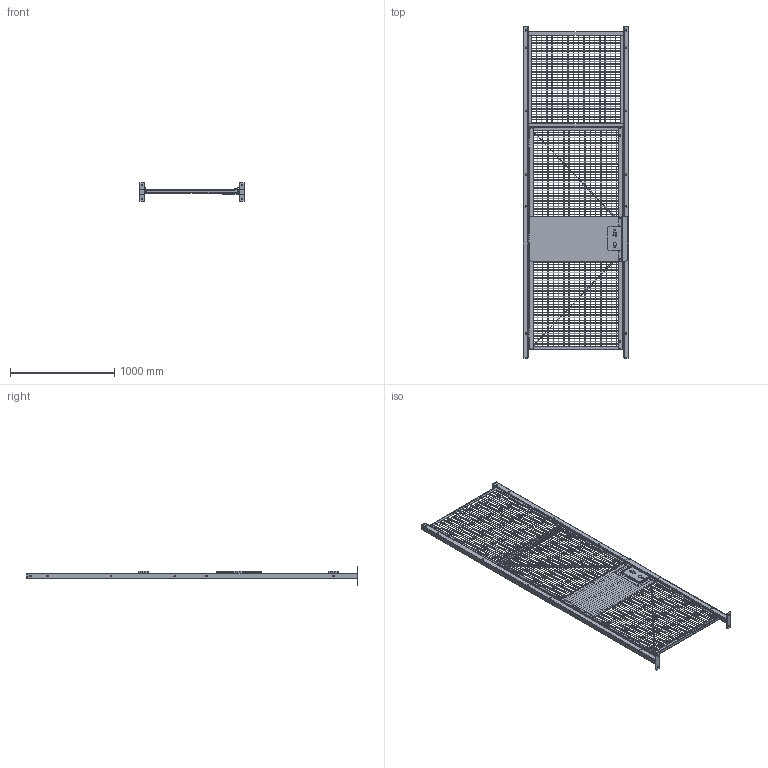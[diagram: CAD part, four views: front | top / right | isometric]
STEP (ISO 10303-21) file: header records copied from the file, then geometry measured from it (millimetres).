
FILE_DESCRIPTION (( 'STEP AP214' ), '1' );
FILE_NAME ('HD3710UNVLHR.STEP', '2021-06-24T17:58:36', ( '' ), ( '' ), 'SwSTEP 2.0', 'SolidWorks 2021', '' );
FILE_SCHEMA (( 'AUTOMOTIVE_DESIGN' ));
Length unit declared in the file: inch
Products named in the file (51): UNVBXSCH-3.stp; LKPSHBARANGMT; COMMON FLAT BAR_PXHD3FD; HDCPLIPB; UNVPBDRFPLT_UNVPBDPRFPLT; UNVDRTOP; COMMON STRU ANGLE 11418_PXHD3XC; COMMON WIRE_10GA X 34; UNVBXSCH; COMMON 840 POST WELD_DP10P; COMMON 840 HDT SIDE COPE_HDT33; COMMON MESH_MHHD3; UNVBXSCH-1.stp; COMMON 840 POST_DP10P; 840 HINGE_840 HNG CLOSED; COMMON BASE PLATE_BP27; UNVDRCOLLAR; HDSLRK9-BASE; POST CAP; COVER PLT UNV; COMMON WIRE_10GA X 83; UNVDRBOT; HDSLRK9-STRIKE; HD3710UNVLHR; COMMON STRU ANGLE 11418_UNVPL; COMMON WIRE_10GA X 35; UNVDRV; 840 HNG B; UNVBXSCH-2.stp; COMMON STRU ANGLE 11418_PX3PC; COMMON STRU ANGLE 11418_PX3; COMMON 840 HD-UNIV_HD3-UNV LHR; HDSLRK9; UNVBXSCH.stp; COMMON STRU ANGLE 11418_PXHD7PX; 840 HNG A; COMMON MESH_MHT33
Assembly tree (195 placements, depth 5):
  HD3710UNVLHR
    COMMON 840 POST WELD_DP10P  x2
      COMMON BASE PLATE_BP27
      COMMON 840 POST_DP10P
      POST CAP
    COMMON 840 HDT SIDE COPE_HDT33
      COMMON STRU ANGLE 11418_PX3  x2
      COMMON STRU ANGLE 11418_PX3PC  x2
      COMMON MESH_MHT33
        COMMON WIRE_10GA X 35  x52
    COMMON 840 HD-UNIV_HD3-UNV LHR
      COMMON STRU ANGLE 11418_PXHD3XC  x2
      COMMON STRU ANGLE 11418_PXHD7PX
      COMMON STRU ANGLE 11418_UNVPL  x2
      COMMON FLAT BAR_PXHD3FD  x2
      COMMON MESH_MHHD3
        COMMON WIRE_10GA X 34  x72
        COMMON WIRE_10GA X 83  x15
        COMMON WIRE_10GA X 83
        COMMON WIRE_10GA X 83
        COMMON WIRE_10GA X 34
        COMMON WIRE_10GA X 34
        COMMON WIRE_10GA X 34
        COMMON WIRE_10GA X 34
        COMMON WIRE_10GA X 34
        COMMON WIRE_10GA X 34
        COMMON WIRE_10GA X 34
        COMMON WIRE_10GA X 34
        COMMON WIRE_10GA X 34
        COMMON WIRE_10GA X 34
        COMMON WIRE_10GA X 34
      840 HINGE_840 HNG CLOSED  x3
        840 HNG A
        840 HNG B
      UNVDRCOLLAR
        UNVDRV
        UNVDRTOP
        UNVDRBOT
      UNVPBDRFPLT_UNVPBDPRFPLT
      LKPSHBARANGMT
      UNVBXSCH
        UNVBXSCH.stp
          UNVBXSCH-2.stp
          UNVBXSCH-1.stp
          UNVBXSCH-3.stp
      HDSLRK9
        HDSLRK9-BASE
        HDSLRK9-STRIKE
      COVER PLT UNV
        COVER PLT UNV  x2
    HDCPLIPB
Bounding box: 1016 x 3185.16 x 177.8 mm (x, y, z)
Volume: 7136433.3 mm3; surface area: 6737780.2 mm2
Topology: 190 solids, 190 shells, 1507 faces, 3246 edges, 2139 vertices
Faces by surface type: plane 966, cylinder 541
Full cylindrical faces by diameter (mm): 3.429 x154, 3.962 x2, 7.294 x6, 7.938 x4, 9.128 x4, 9.525 x5, 11.112 x4, 12.7 x58, 14.288 x1, 15.875 x4, 25.4 x2, 31.75 x2
Entity records: 26072 total; most frequent: DIRECTION 4271, CARTESIAN_POINT 4052, ORIENTED_EDGE 3630, EDGE_CURVE 1815, AXIS2_PLACEMENT_3D 1501, LINE 1269, VECTOR 1269, VERTEX_POINT 1226
